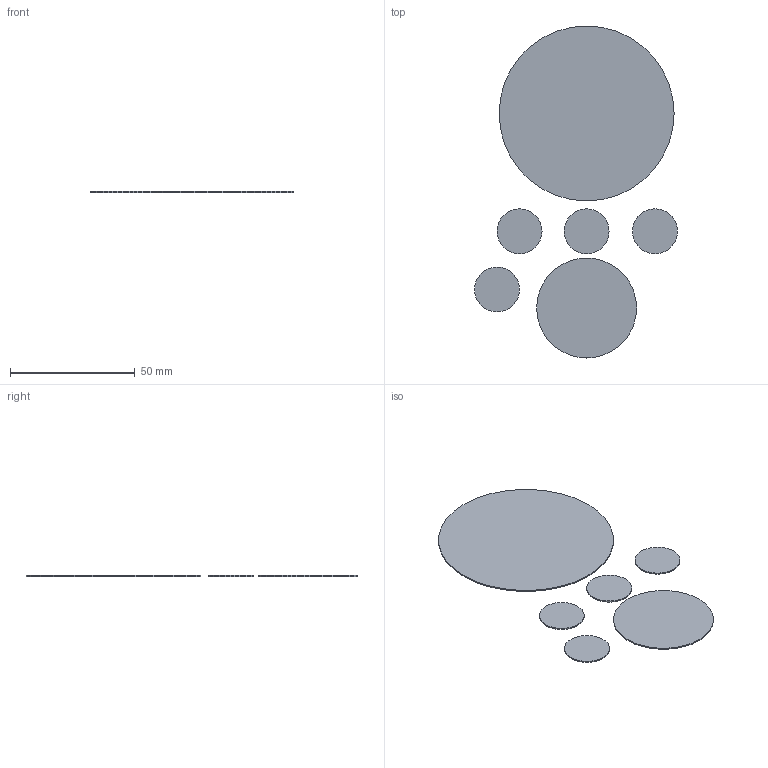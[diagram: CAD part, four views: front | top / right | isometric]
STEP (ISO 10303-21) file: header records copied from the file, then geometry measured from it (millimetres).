
FILE_DESCRIPTION(('STEP AP203'), '1');
FILE_NAME('êðóæêè äåêîð', '', ('UNSPECIFIED'), ('UNSPECIFIED'), 'ASCON STEP Converter 1.3', 'ASCON Math Kernel', '');
FILE_SCHEMA(('CONFIG_CONTROL_DESIGN'));
Length unit declared in the file: millimetre
Bounding box: 81.2 x 132.83 x 0.5 mm (x, y, z)
Volume: 3061.5 mm3; surface area: 12531.8 mm2
Topology: 6 solids, 6 shells, 18 faces, 18 edges, 12 vertices
Faces by surface type: plane 12, cylinder 6
Full cylindrical faces by diameter (mm): 18 x4, 40 x1, 70 x1
Entity records: 522 total; most frequent: DIRECTION 62, CARTESIAN_POINT 43, AXIS2_PLACEMENT_3D 31, COLOUR_RGB 24, FILL_AREA_STYLE_COLOUR 24, FILL_AREA_STYLE 24, SURFACE_STYLE_FILL_AREA 24, SURFACE_SIDE_STYLE 24
